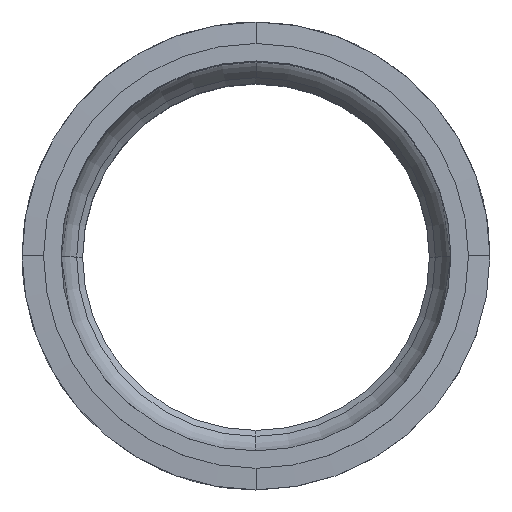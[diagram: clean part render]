
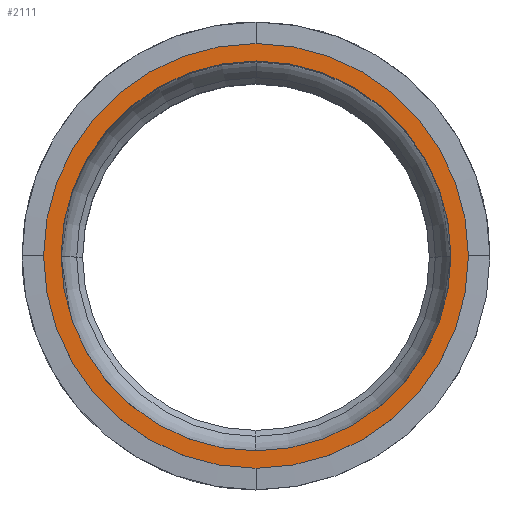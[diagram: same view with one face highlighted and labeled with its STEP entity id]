
A CAD part, top view. The second image highlights one B-rep face of the part: STEP entity #2111.
In plain terms, the highlighted planar face has unit normal (0, 0, 1).
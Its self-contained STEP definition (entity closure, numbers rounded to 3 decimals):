
#56=FACE_BOUND('',#645,.T.);
#58=PLANE('',#2297);
#509=FACE_OUTER_BOUND('',#644,.T.);
#644=EDGE_LOOP('',(#1705,#1706,#1707,#1708));
#645=EDGE_LOOP('',(#1709,#1710,#1711,#1712));
#761=CIRCLE('',#2286,38.);
#768=CIRCLE('',#2296,38.);
#769=CIRCLE('',#2298,41.4);
#770=CIRCLE('',#2299,41.4);
#771=CIRCLE('',#2300,41.4);
#772=CIRCLE('',#2301,41.4);
#773=CIRCLE('',#2302,38.);
#774=CIRCLE('',#2303,38.);
#906=VERTEX_POINT('',#5961);
#907=VERTEX_POINT('',#5963);
#929=VERTEX_POINT('',#6697);
#930=VERTEX_POINT('',#6701);
#931=VERTEX_POINT('',#6702);
#932=VERTEX_POINT('',#6704);
#933=VERTEX_POINT('',#6706);
#934=VERTEX_POINT('',#6709);
#1160=EDGE_CURVE('',#906,#907,#761,.T.);
#1196=EDGE_CURVE('',#906,#929,#768,.T.);
#1197=EDGE_CURVE('',#930,#931,#769,.T.);
#1198=EDGE_CURVE('',#932,#930,#770,.T.);
#1199=EDGE_CURVE('',#933,#932,#771,.T.);
#1200=EDGE_CURVE('',#931,#933,#772,.T.);
#1201=EDGE_CURVE('',#934,#929,#773,.T.);
#1202=EDGE_CURVE('',#934,#907,#774,.T.);
#1705=ORIENTED_EDGE('',*,*,#1197,.F.);
#1706=ORIENTED_EDGE('',*,*,#1198,.F.);
#1707=ORIENTED_EDGE('',*,*,#1199,.F.);
#1708=ORIENTED_EDGE('',*,*,#1200,.F.);
#1709=ORIENTED_EDGE('',*,*,#1201,.F.);
#1710=ORIENTED_EDGE('',*,*,#1202,.T.);
#1711=ORIENTED_EDGE('',*,*,#1160,.F.);
#1712=ORIENTED_EDGE('',*,*,#1196,.T.);
#2111=ADVANCED_FACE('',(#509,#56),#58,.T.);
#2286=AXIS2_PLACEMENT_3D('',#5964,#2679,#2680);
#2296=AXIS2_PLACEMENT_3D('',#6699,#2712,#2713);
#2297=AXIS2_PLACEMENT_3D('',#6700,#2714,#2715);
#2298=AXIS2_PLACEMENT_3D('',#6703,#2716,#2717);
#2299=AXIS2_PLACEMENT_3D('',#6705,#2718,#2719);
#2300=AXIS2_PLACEMENT_3D('',#6707,#2720,#2721);
#2301=AXIS2_PLACEMENT_3D('',#6708,#2722,#2723);
#2302=AXIS2_PLACEMENT_3D('',#6710,#2724,#2725);
#2303=AXIS2_PLACEMENT_3D('',#6711,#2726,#2727);
#2679=DIRECTION('center_axis',(0.,0.,
1.));
#2680=DIRECTION('ref_axis',(0.,1.,0.));
#2712=DIRECTION('center_axis',(0.,0.,
-1.));
#2713=DIRECTION('ref_axis',(0.,1.,0.));
#2714=DIRECTION('center_axis',(0.,0.,
1.));
#2715=DIRECTION('ref_axis',(0.,1.,0.));
#2716=DIRECTION('center_axis',(0.,0.,
-1.));
#2717=DIRECTION('ref_axis',(0.,-1.,0.));
#2718=DIRECTION('center_axis',(0.,0.,
-1.));
#2719=DIRECTION('ref_axis',(0.,1.,0.));
#2720=DIRECTION('center_axis',(0.,0.,
-1.));
#2721=DIRECTION('ref_axis',(0.,1.,0.));
#2722=DIRECTION('center_axis',(0.,0.,
-1.));
#2723=DIRECTION('ref_axis',(0.,-1.,0.));
#2724=DIRECTION('center_axis',(0.,0.,
1.));
#2725=DIRECTION('ref_axis',(0.,-1.,0.));
#2726=DIRECTION('center_axis',(0.,0.,
-1.));
#2727=DIRECTION('ref_axis',(0.,-1.,0.));
#5961=CARTESIAN_POINT('',(0.,38.,0.));
#5963=CARTESIAN_POINT('',(-38.,0.,0.));
#5964=CARTESIAN_POINT('Origin',(0.,0.,
0.));
#6697=CARTESIAN_POINT('',(38.,0.,0.));
#6699=CARTESIAN_POINT('Origin',(0.,0.,
0.));
#6700=CARTESIAN_POINT('Origin',(41.4,-41.4,0.));
#6701=CARTESIAN_POINT('',(41.4,0.,0.));
#6702=CARTESIAN_POINT('',(0.,-41.4,0.));
#6703=CARTESIAN_POINT('Origin',(0.,0.,
0.));
#6704=CARTESIAN_POINT('',(0.,41.4,0.));
#6705=CARTESIAN_POINT('Origin',(0.,0.,
0.));
#6706=CARTESIAN_POINT('',(-41.4,0.,0.));
#6707=CARTESIAN_POINT('Origin',(0.,0.,
0.));
#6708=CARTESIAN_POINT('Origin',(0.,0.,
0.));
#6709=CARTESIAN_POINT('',(0.,-38.,0.));
#6710=CARTESIAN_POINT('Origin',(0.,0.,
0.));
#6711=CARTESIAN_POINT('Origin',(0.,0.,
0.));
